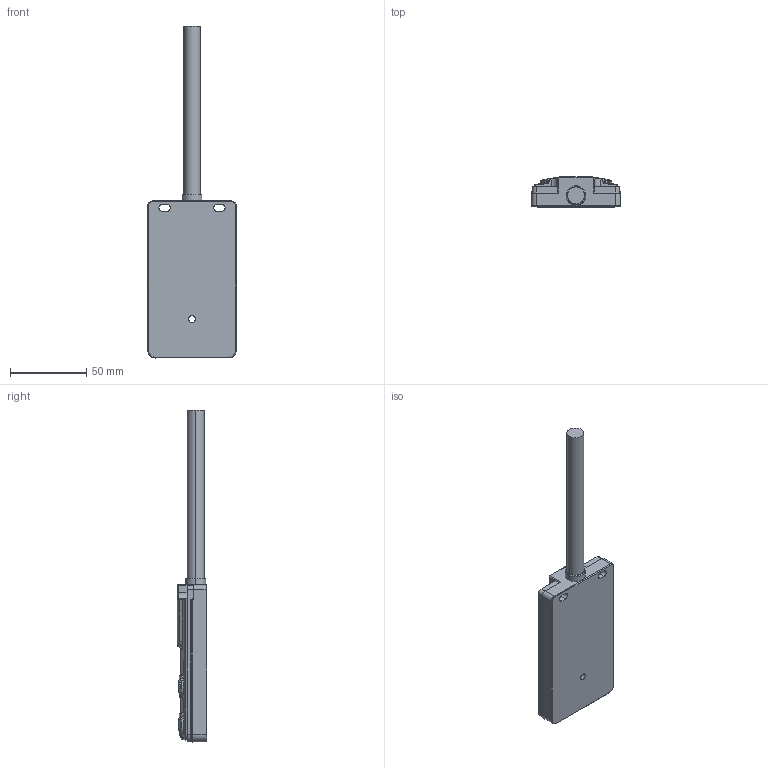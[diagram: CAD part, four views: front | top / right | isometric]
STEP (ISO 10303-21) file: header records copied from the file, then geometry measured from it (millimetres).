
FILE_DESCRIPTION((''),'2;1');
FILE_NAME('24P421_24N421_','2022-06-01T',('PC'),(''),'PRO/ENGINEER BY PARAMETRIC TECHNOLOGY CORPORATION, 2009220','PRO/ENGINEER BY PARAMETRIC TECHNOLOGY CORPORATION, 2009220','');
FILE_SCHEMA(('CONFIG_CONTROL_DESIGN'));
Products named in the file (1): 24P421_24N421_
Bounding box: 58 x 19.5 x 217.75 mm (x, y, z)
Volume: 106397 mm3; surface area: 27273.3 mm2
Topology: 1 solids, 1 shells, 1571 faces, 4403 edges, 2888 vertices
Faces by surface type: plane 753, cylinder 403, bspline 204, cone 84, torus 66, extrusion 57, sphere 2, revolution 2
Entity records: 72461 total; most frequent: CARTESIAN_POINT 32996, ORIENTED_EDGE 8802, DIRECTION 7382, EDGE_CURVE 4401, VERTEX_POINT 2888, VECTOR 2566, LINE 2509, AXIS2_PLACEMENT_3D 2407
